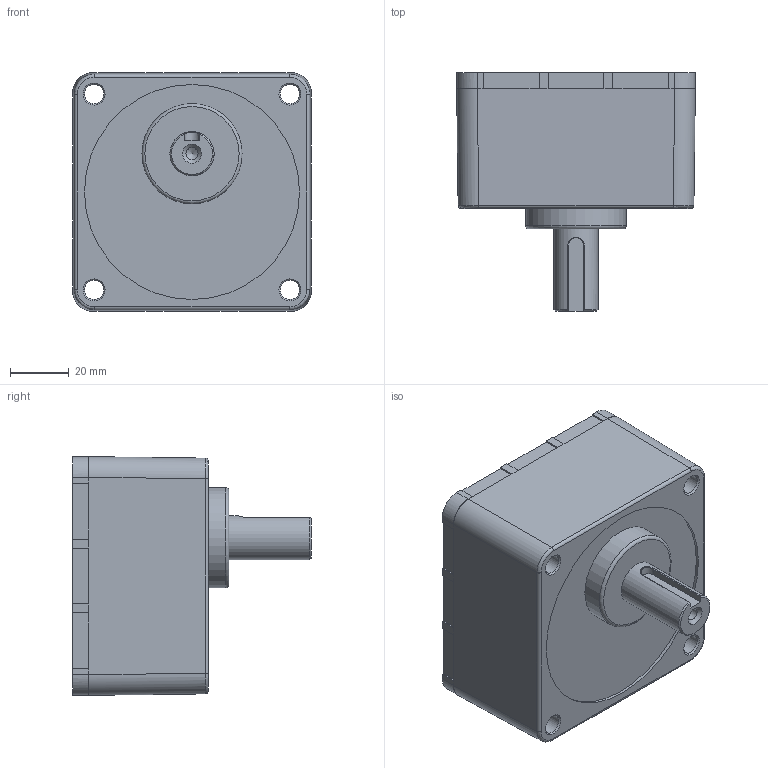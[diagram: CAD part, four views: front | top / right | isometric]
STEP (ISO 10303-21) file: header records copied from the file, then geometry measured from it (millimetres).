
FILE_DESCRIPTION((''),'2;1');
FILE_NAME('E:\2공장-도면\3D\STEP FILE\K8H(30~100)B.stp','2014-08-18T15:40:17',('輺'),(''),'Autodesk Inventor 2008','Autodesk Inventor 2008','');
FILE_SCHEMA(('CONFIG_CONTROL_DESIGN'));
Length unit declared in the file: millimetre
Products named in the file (1): 부품51
Bounding box: 81 x 81 x 81 mm (x, y, z)
Volume: 286511.7 mm3; surface area: 33736.4 mm2
Topology: 1 solids, 1 shells, 130 faces, 308 edges, 189 vertices
Faces by surface type: plane 86, cylinder 26, bspline 10, cone 7, torus 1
Full cylindrical faces by diameter (mm): 6.5 x4, 7 x4, 8.2 x1, 15 x1, 34 x1, 73 x2
Entity records: 4254 total; most frequent: CARTESIAN_POINT 1213, DIRECTION 577, ORIENTED_EDGE 562, EDGE_CURVE 281, VECTOR 203, LINE 203, AXIS2_PLACEMENT_3D 187, VERTEX_POINT 185
